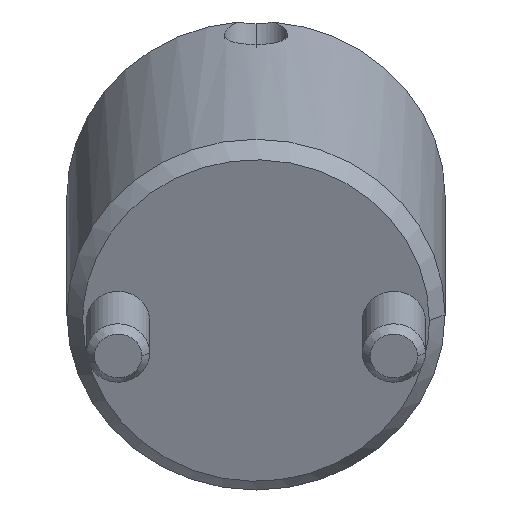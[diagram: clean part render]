
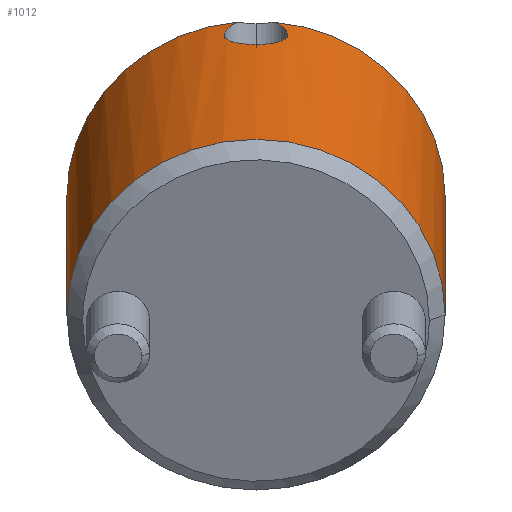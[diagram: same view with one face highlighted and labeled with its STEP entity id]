
A CAD part, front view. The second image highlights one B-rep face of the part: STEP entity #1012.
In plain terms, the highlighted cylindrical face has radius 12 mm (diameter 24 mm), a partial arc.
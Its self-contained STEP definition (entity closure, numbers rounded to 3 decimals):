
#778=CARTESIAN_POINT('Vertex',(0.,12.,1.)) ;
#781=CARTESIAN_POINT('Axis2P3D Location',(0.,0.,1.)) ;
#785=CARTESIAN_POINT('Vertex',(0.,-12.,1.)) ;
#925=CARTESIAN_POINT('Axis2P3D Location',(0.,0.,-1.1)) ;
#931=CARTESIAN_POINT('Control Point',(11.948,-1.115,21.)) ;
#932=CARTESIAN_POINT('Control Point',(11.619,-4.646,21.)) ;
#933=CARTESIAN_POINT('Control Point',(9.987,-8.058,21.)) ;
#934=CARTESIAN_POINT('Control Point',(7.096,-10.693,21.)) ;
#935=CARTESIAN_POINT('Control Point',(3.547,-12.,21.)) ;
#936=CARTESIAN_POINT('Control Point',(0.,-12.,21.)) ;
#937=CARTESIAN_POINT('Vertex',(11.948,-1.115,21.)) ;
#939=CARTESIAN_POINT('Vertex',(0.,-12.,21.)) ;
#942=CARTESIAN_POINT('Line Origine',(0.,-12.,-1.1)) ;
#947=CARTESIAN_POINT('Line Origine',(0.,12.,-1.1)) ;
#951=CARTESIAN_POINT('Vertex',(0.,12.,21.)) ;
#954=CARTESIAN_POINT('Axis2P3D Location',(0.,0.,21.)) ;
#958=CARTESIAN_POINT('Vertex',(11.948,1.115,21.)) ;
#962=CARTESIAN_POINT('Control Point',(11.948,1.115,21.)) ;
#963=CARTESIAN_POINT('Control Point',(11.932,1.288,20.868)) ;
#964=CARTESIAN_POINT('Control Point',(11.915,1.44,20.716)) ;
#965=CARTESIAN_POINT('Control Point',(11.897,1.574,20.545)) ;
#966=CARTESIAN_POINT('Control Point',(11.865,1.804,20.169)) ;
#967=CARTESIAN_POINT('Control Point',(11.842,1.941,19.754)) ;
#968=CARTESIAN_POINT('Control Point',(11.834,1.986,19.534)) ;
#969=CARTESIAN_POINT('Control Point',(11.828,2.025,19.096)) ;
#970=CARTESIAN_POINT('Control Point',(11.839,1.96,18.659)) ;
#971=CARTESIAN_POINT('Control Point',(11.849,1.903,18.45)) ;
#972=CARTESIAN_POINT('Control Point',(11.875,1.738,18.056)) ;
#973=CARTESIAN_POINT('Control Point',(11.909,1.482,17.719)) ;
#974=CARTESIAN_POINT('Control Point',(11.927,1.334,17.571)) ;
#975=CARTESIAN_POINT('Control Point',(11.961,1.004,17.316)) ;
#976=CARTESIAN_POINT('Control Point',(11.986,0.619,17.155)) ;
#977=CARTESIAN_POINT('Control Point',(11.995,0.415,17.1)) ;
#978=CARTESIAN_POINT('Control Point',(12.,0.209,17.073)) ;
#979=CARTESIAN_POINT('Control Point',(12.,0.,17.073)) ;
#980=CARTESIAN_POINT('Vertex',(12.,0.,17.073)) ;
#984=CARTESIAN_POINT('Control Point',(12.,0.,17.073)) ;
#985=CARTESIAN_POINT('Control Point',(12.,-0.345,17.073)) ;
#986=CARTESIAN_POINT('Control Point',(11.988,-0.681,17.147)) ;
#987=CARTESIAN_POINT('Control Point',(11.963,-1.008,17.297)) ;
#988=CARTESIAN_POINT('Control Point',(11.921,-1.397,17.597)) ;
#989=CARTESIAN_POINT('Control Point',(11.883,-1.677,17.994)) ;
#990=CARTESIAN_POINT('Control Point',(11.872,-1.748,18.115)) ;
#991=CARTESIAN_POINT('Control Point',(11.849,-1.902,18.439)) ;
#992=CARTESIAN_POINT('Control Point',(11.834,-1.987,18.793)) ;
#993=CARTESIAN_POINT('Control Point',(11.83,-2.011,19.011)) ;
#994=CARTESIAN_POINT('Control Point',(11.831,-2.008,19.378)) ;
#995=CARTESIAN_POINT('Control Point',(11.843,-1.935,19.741)) ;
#996=CARTESIAN_POINT('Control Point',(11.85,-1.894,19.885)) ;
#997=CARTESIAN_POINT('Control Point',(11.87,-1.768,20.225)) ;
#998=CARTESIAN_POINT('Control Point',(11.897,-1.578,20.539)) ;
#999=CARTESIAN_POINT('Control Point',(11.914,-1.444,20.712)) ;
#1000=CARTESIAN_POINT('Control Point',(11.932,-1.29,20.867)) ;
#1001=CARTESIAN_POINT('Control Point',(11.948,-1.115,21.)) ;
#782=DIRECTION('Axis2P3D Direction',(0.,0.,1.)) ;
#926=DIRECTION('Axis2P3D Direction',(0.,-0.,1.)) ;
#927=DIRECTION('Axis2P3D XDirection',(0.,-1.,0.)) ;
#943=DIRECTION('Vector Direction',(0.,0.,1.)) ;
#948=DIRECTION('Vector Direction',(0.,0.,1.)) ;
#955=DIRECTION('Axis2P3D Direction',(0.,-0.,1.)) ;
#783=AXIS2_PLACEMENT_3D('Circle Axis2P3D',#781,#782,$) ;
#928=AXIS2_PLACEMENT_3D('Cylinder Axis2P3D',#925,#926,#927) ;
#956=AXIS2_PLACEMENT_3D('Circle Axis2P3D',#954,#955,$) ;
#1004=ORIENTED_EDGE('',*,*,#941,.T.) ;
#1005=ORIENTED_EDGE('',*,*,#946,.T.) ;
#1006=ORIENTED_EDGE('',*,*,#787,.F.) ;
#1007=ORIENTED_EDGE('',*,*,#953,.F.) ;
#1008=ORIENTED_EDGE('',*,*,#960,.T.) ;
#1009=ORIENTED_EDGE('',*,*,#982,.T.) ;
#1010=ORIENTED_EDGE('',*,*,#1002,.T.) ;
#944=VECTOR('Line Direction',#943,1.) ;
#949=VECTOR('Line Direction',#948,1.) ;
#1012=ADVANCED_FACE('MANIFOLD_SOLID_BREP #1133',(#1011),#929,.T.) ;
#930=B_SPLINE_CURVE_WITH_KNOTS('',5,(#931,#932,#933,#934,#935,#936),.UNSPECIFIED.,.F.,.U.,(6,6),(-8.867,8.867),.UNSPECIFIED.) ;
#961=B_SPLINE_CURVE_WITH_KNOTS('',5,(#962,#963,#964,#965,#966,#967,#968,#969,#970,#971,#972,#973,#974,#975,#976,#977,#978,#979),.UNSPECIFIED.,.F.,.U.,(6,3,3,3,3,6),(0.,1.457,3.029,4.555,6.053,7.556),.UNSPECIFIED.) ;
#983=B_SPLINE_CURVE_WITH_KNOTS('',5,(#984,#985,#986,#987,#988,#989,#990,#991,#992,#993,#994,#995,#996,#997,#998,#999,#1000,#1001),.UNSPECIFIED.,.F.,.U.,(6,3,3,3,3,6),(0.,2.482,3.488,5.036,6.081,7.554),.UNSPECIFIED.) ;
#784=CIRCLE('generated circle',#783,12.) ;
#957=CIRCLE('generated circle',#956,12.) ;
#929=CYLINDRICAL_SURFACE('generated cylinder',#928,12.) ;
#787=EDGE_CURVE('',#779,#786,#784,.F.) ;
#941=EDGE_CURVE('',#938,#940,#930,.T.) ;
#946=EDGE_CURVE('',#940,#786,#945,.F.) ;
#953=EDGE_CURVE('',#952,#779,#950,.F.) ;
#960=EDGE_CURVE('',#952,#959,#957,.F.) ;
#982=EDGE_CURVE('',#959,#981,#961,.T.) ;
#1002=EDGE_CURVE('',#981,#938,#983,.T.) ;
#1003=EDGE_LOOP('',(#1004,#1005,#1006,#1007,#1008,#1009,#1010)) ;
#1011=FACE_OUTER_BOUND('',#1003,.T.) ;
#945=LINE('Line',#942,#944) ;
#950=LINE('Line',#947,#949) ;
#779=VERTEX_POINT('',#778) ;
#786=VERTEX_POINT('',#785) ;
#938=VERTEX_POINT('',#937) ;
#940=VERTEX_POINT('',#939) ;
#952=VERTEX_POINT('',#951) ;
#959=VERTEX_POINT('',#958) ;
#981=VERTEX_POINT('',#980) ;
